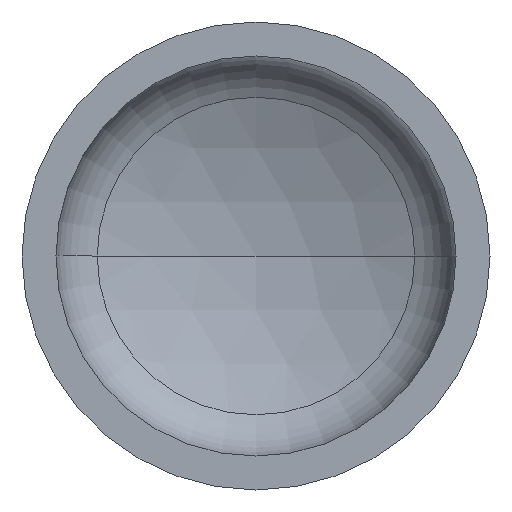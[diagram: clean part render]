
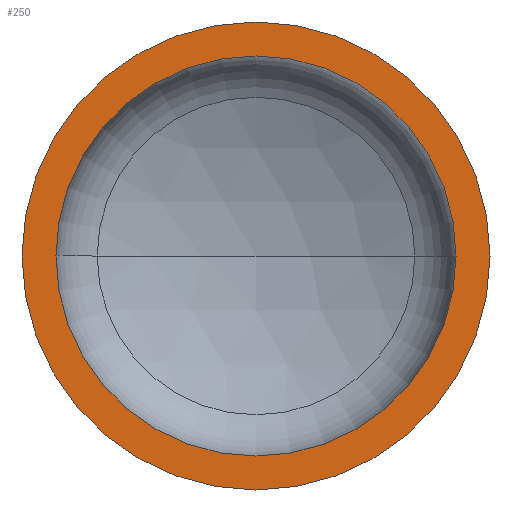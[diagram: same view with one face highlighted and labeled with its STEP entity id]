
A CAD part, front view. The second image highlights one B-rep face of the part: STEP entity #250.
In plain terms, the highlighted planar face has unit normal (0, -1, 0).
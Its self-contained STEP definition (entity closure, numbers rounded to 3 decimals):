
#6 = AXIS2_PLACEMENT_3D ( 'NONE', #157, #332, #192 ) ;
#7 = EDGE_LOOP ( 'NONE', ( #119, #80 ) ) ;
#10 = CARTESIAN_POINT ( 'NONE',  ( -800., 0., 0. ) ) ;
#11 = ORIENTED_EDGE ( 'NONE', *, *, #373, .F. ) ;
#30 = AXIS2_PLACEMENT_3D ( 'NONE', #266, #169, #170 ) ;
#35 = VERTEX_POINT ( 'NONE', #294 ) ;
#40 = EDGE_LOOP ( 'NONE', ( #101, #11 ) ) ;
#52 = VERTEX_POINT ( 'NONE', #255 ) ;
#80 = ORIENTED_EDGE ( 'NONE', *, *, #163, .T. ) ;
#92 = AXIS2_PLACEMENT_3D ( 'NONE', #10, #148, #202 ) ;
#96 = VERTEX_POINT ( 'NONE', #257 ) ;
#101 = ORIENTED_EDGE ( 'NONE', *, *, #167, .F. ) ;
#104 = VERTEX_POINT ( 'NONE', #339 ) ;
#119 = ORIENTED_EDGE ( 'NONE', *, *, #359, .T. ) ;
#128 = FACE_BOUND ( 'NONE', #40, .T. ) ;
#142 = AXIS2_PLACEMENT_3D ( 'NONE', #314, #320, #319 ) ;
#148 = DIRECTION ( 'NONE',  ( 0., 1., 0. ) ) ;
#156 = AXIS2_PLACEMENT_3D ( 'NONE', #342, #348, #345 ) ;
#157 = CARTESIAN_POINT ( 'NONE',  ( 0., 0., 0. ) ) ;
#163 = EDGE_CURVE ( 'NONE', #104, #96, #166, .T. ) ;
#166 = CIRCLE ( 'NONE', #156, 800. ) ;
#167 = EDGE_CURVE ( 'NONE', #52, #35, #293, .T. ) ;
#169 = DIRECTION ( 'NONE',  ( 0., -1., 0. ) ) ;
#170 = DIRECTION ( 'NONE',  ( 1., 0., 0. ) ) ;
#192 = DIRECTION ( 'NONE',  ( 1., 0., 0. ) ) ;
#202 = DIRECTION ( 'NONE',  ( -1., 0., 0. ) ) ;
#250 = ADVANCED_FACE ( 'NONE', ( #128, #340 ), #281, .F. ) ;
#255 = CARTESIAN_POINT ( 'NONE',  ( 684., 0., 0. ) ) ;
#256 = CIRCLE ( 'NONE', #6, 684. ) ;
#257 = CARTESIAN_POINT ( 'NONE',  ( 800., 0., 0. ) ) ;
#266 = CARTESIAN_POINT ( 'NONE',  ( 0., 0., 0. ) ) ;
#281 = PLANE ( 'NONE',  #92 ) ;
#293 = CIRCLE ( 'NONE', #142, 684. ) ;
#294 = CARTESIAN_POINT ( 'NONE',  ( -684., 0., 0. ) ) ;
#314 = CARTESIAN_POINT ( 'NONE',  ( 0., 0., 0. ) ) ;
#319 = DIRECTION ( 'NONE',  ( 1., 0., 0. ) ) ;
#320 = DIRECTION ( 'NONE',  ( 0., -1., 0. ) ) ;
#332 = DIRECTION ( 'NONE',  ( 0., -1., 0. ) ) ;
#339 = CARTESIAN_POINT ( 'NONE',  ( -800., 0., 0. ) ) ;
#340 = FACE_OUTER_BOUND ( 'NONE', #7, .T. ) ;
#342 = CARTESIAN_POINT ( 'NONE',  ( 0., 0., 0. ) ) ;
#345 = DIRECTION ( 'NONE',  ( 1., 0., 0. ) ) ;
#348 = DIRECTION ( 'NONE',  ( 0., -1., 0. ) ) ;
#359 = EDGE_CURVE ( 'NONE', #96, #104, #372, .T. ) ;
#372 = CIRCLE ( 'NONE', #30, 800. ) ;
#373 = EDGE_CURVE ( 'NONE', #35, #52, #256, .T. ) ;
